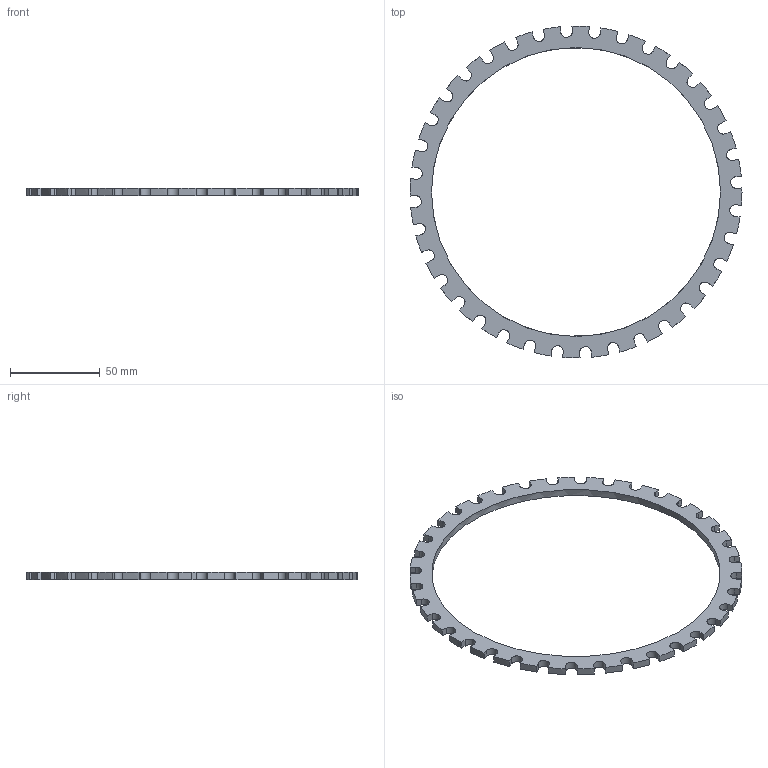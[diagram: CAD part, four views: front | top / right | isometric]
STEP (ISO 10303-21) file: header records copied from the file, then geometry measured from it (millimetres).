
FILE_DESCRIPTION(('CATIA V5 STEP Exchange'),'2;1');
FILE_NAME('D:\交接\张长江\21-Benz H6\光华荣昌转盘数据\H6 转盘\转盘用整椅数据 A9609109920\sample\H6 转盘夏季测试样件方案_20240617\样件数据\塑料件\SHT0017294-000 内层滚珠保持架.stp','2024-06-19T03:50:13+00:00',('none'),('none'),'CATIA Version 5 Release 20 GA (IN-10)','CATIA V5 STEP AP203 Edition 2','none');
FILE_SCHEMA(('AP203_CONFIGURATION_CONTROLLED_3D_DESIGN_OF_MECHANICAL_PARTS_AND_ASSEMBLIES_MIM_LF { 1 0 10303 403 2 1 2}'));
Length unit declared in the file: millimetre
Products named in the file (1): SHT0017294-000
Bounding box: 185 x 184.99 x 4 mm (x, y, z)
Volume: 20993.2 mm3; surface area: 16228.1 mm2
Topology: 1 solids, 1 shells, 150 faces, 444 edges, 296 vertices
Faces by surface type: cylinder 76, plane 74
Entity records: 5186 total; most frequent: CARTESIAN_POINT 1574, ORIENTED_EDGE 888, DIRECTION 526, EDGE_CURVE 444, VERTEX_POINT 296, VECTOR 220, LINE 220, AXIS2_PLACEMENT_3D 192
